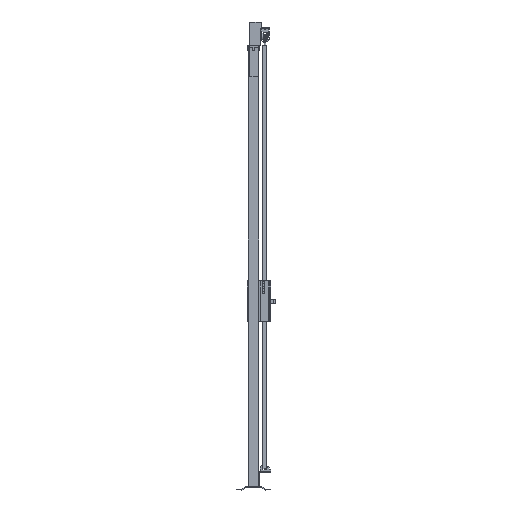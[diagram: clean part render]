
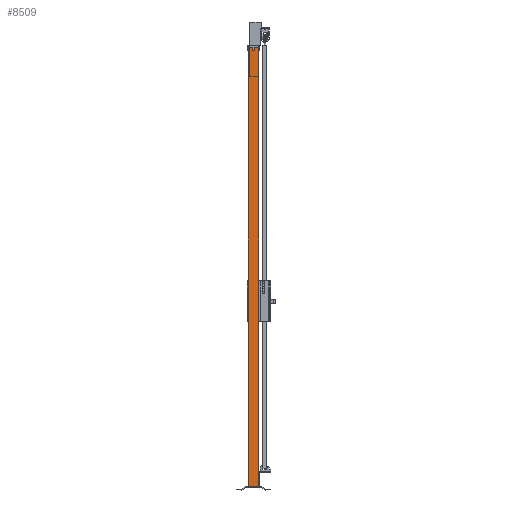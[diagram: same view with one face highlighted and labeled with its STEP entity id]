
A CAD part, left-side view. The second image highlights one B-rep face of the part: STEP entity #8509.
In plain terms, the highlighted planar face has unit normal (-1, 0, 0).
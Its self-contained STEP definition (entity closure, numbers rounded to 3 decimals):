
#942=FACE_OUTER_BOUND('',#1363,.T.);
#1363=EDGE_LOOP('',(#6491,#6492,#6493,#6494));
#2105=LINE('',#12780,#3239);
#2109=LINE('',#12789,#3243);
#2111=LINE('',#12792,#3245);
#2113=LINE('',#12795,#3247);
#3239=VECTOR('',#10124,1.);
#3243=VECTOR('',#10130,1.);
#3245=VECTOR('',#10134,1.);
#3247=VECTOR('',#10138,1.);
#4141=VERTEX_POINT('',#12777);
#4142=VERTEX_POINT('',#12779);
#4145=VERTEX_POINT('',#12786);
#4146=VERTEX_POINT('',#12788);
#5039=EDGE_CURVE('',#4141,#4142,#2105,.T.);
#5043=EDGE_CURVE('',#4145,#4146,#2109,.T.);
#5045=EDGE_CURVE('',#4142,#4145,#2111,.T.);
#5047=EDGE_CURVE('',#4141,#4146,#2113,.T.);
#6491=ORIENTED_EDGE('',*,*,#5047,.T.);
#6492=ORIENTED_EDGE('',*,*,#5043,.F.);
#6493=ORIENTED_EDGE('',*,*,#5045,.F.);
#6494=ORIENTED_EDGE('',*,*,#5039,.F.);
#8135=PLANE('',#8977);
#8509=ADVANCED_FACE('',(#942),#8135,.F.);
#8977=AXIS2_PLACEMENT_3D('',#12794,#10136,#10137);
#10124=DIRECTION('',(0.,-1.,0.));
#10130=DIRECTION('',(0.,1.,0.));
#10134=DIRECTION('',(0.,0.,-1.));
#10136=DIRECTION('center_axis',(1.,0.,0.));
#10137=DIRECTION('ref_axis',(0.,0.,-1.));
#10138=DIRECTION('',(0.,0.,-1.));
#12777=CARTESIAN_POINT('',(-30.,30.,2520.));
#12779=CARTESIAN_POINT('',(-30.,-30.,2520.));
#12780=CARTESIAN_POINT('',(-30.,0.,2520.));
#12786=CARTESIAN_POINT('',(-30.,-30.,20.));
#12788=CARTESIAN_POINT('',(-30.,30.,20.));
#12789=CARTESIAN_POINT('',(-30.,0.,20.));
#12792=CARTESIAN_POINT('',(-30.,-30.,1270.));
#12794=CARTESIAN_POINT('Origin',(-30.,0.,
1270.));
#12795=CARTESIAN_POINT('',(-30.,30.,1270.));
